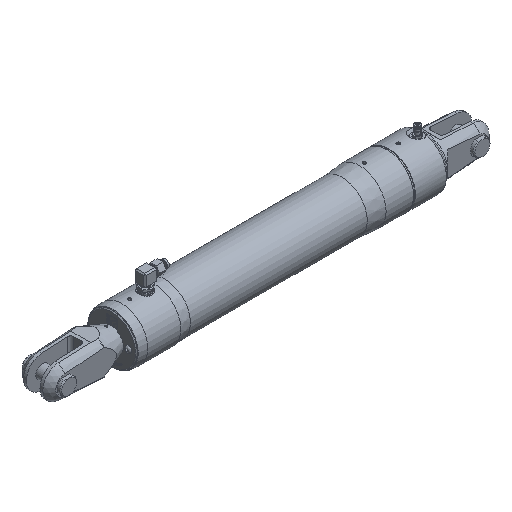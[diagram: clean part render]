
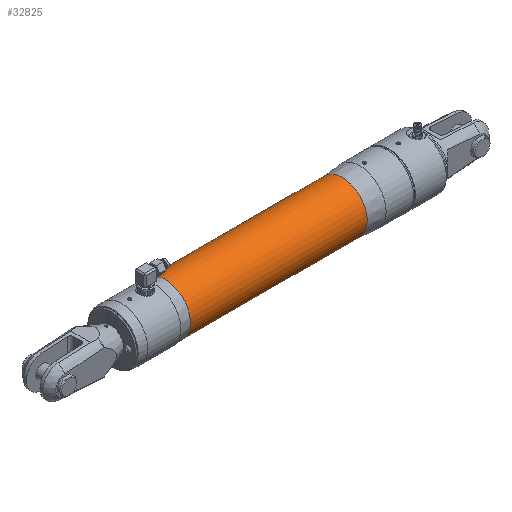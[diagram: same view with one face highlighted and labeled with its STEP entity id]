
A CAD part, isometric view. The second image highlights one B-rep face of the part: STEP entity #32825.
In plain terms, the highlighted cylindrical face has radius 41.3 mm (diameter 82.6 mm), a full revolution.
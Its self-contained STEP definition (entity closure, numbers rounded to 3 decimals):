
#3458=FACE_OUTER_BOUND('',#5248,.T.);
#5248=EDGE_LOOP('',(#22237,#22238,#22239,#22240,#22241,#22242));
#7203=LINE('',#43944,#10159);
#10159=VECTOR('',#37034,41.3);
#13061=CIRCLE('',#34796,41.3);
#13062=CIRCLE('',#34797,41.3);
#13064=CIRCLE('',#34800,41.3);
#13065=CIRCLE('',#34801,41.3);
#13648=VERTEX_POINT('',#43936);
#13649=VERTEX_POINT('',#43938);
#13650=VERTEX_POINT('',#43943);
#13651=VERTEX_POINT('',#43945);
#16985=EDGE_CURVE('',#13649,#13648,#13061,.T.);
#16986=EDGE_CURVE('',#13648,#13649,#13062,.T.);
#16988=EDGE_CURVE('',#13648,#13650,#7203,.T.);
#16989=EDGE_CURVE('',#13651,#13650,#13064,.T.);
#16990=EDGE_CURVE('',#13650,#13651,#13065,.T.);
#22237=ORIENTED_EDGE('',*,*,#16985,.T.);
#22238=ORIENTED_EDGE('',*,*,#16988,.T.);
#22239=ORIENTED_EDGE('',*,*,#16989,.F.);
#22240=ORIENTED_EDGE('',*,*,#16990,.F.);
#22241=ORIENTED_EDGE('',*,*,#16988,.F.);
#22242=ORIENTED_EDGE('',*,*,#16986,.T.);
#30810=CYLINDRICAL_SURFACE('',#34799,41.3);
#32825=ADVANCED_FACE('',(#3458),#30810,.T.);
#34796=AXIS2_PLACEMENT_3D('',#43939,#37026,#37027);
#34797=AXIS2_PLACEMENT_3D('',#43940,#37028,#37029);
#34799=AXIS2_PLACEMENT_3D('',#43942,#37032,#37033);
#34800=AXIS2_PLACEMENT_3D('',#43946,#37035,#37036);
#34801=AXIS2_PLACEMENT_3D('',#43947,#37037,#37038);
#37026=DIRECTION('center_axis',(1.,0.,0.));
#37027=DIRECTION('ref_axis',(0.,0.,
-1.));
#37028=DIRECTION('center_axis',(1.,0.,0.));
#37029=DIRECTION('ref_axis',(0.,0.,
-1.));
#37032=DIRECTION('center_axis',(1.,0.,0.));
#37033=DIRECTION('ref_axis',(0.,0.,
1.));
#37034=DIRECTION('',(1.,0.,0.));
#37035=DIRECTION('center_axis',(1.,0.,0.));
#37036=DIRECTION('ref_axis',(0.,0.,
-1.));
#37037=DIRECTION('center_axis',(1.,0.,0.));
#37038=DIRECTION('ref_axis',(0.,0.,
-1.));
#43936=CARTESIAN_POINT('',(-356.234,0.,-41.3));
#43938=CARTESIAN_POINT('',(-356.234,0.,41.3));
#43939=CARTESIAN_POINT('Origin',(-356.234,0.,
0.));
#43940=CARTESIAN_POINT('Origin',(-356.234,0.,
0.));
#43942=CARTESIAN_POINT('Origin',(-210.291,0.,
0.));
#43943=CARTESIAN_POINT('',(-64.348,0.,-41.3));
#43944=CARTESIAN_POINT('',(-210.291,0.,-41.3));
#43945=CARTESIAN_POINT('',(-64.348,0.,41.3));
#43946=CARTESIAN_POINT('Origin',(-64.348,0.,
0.));
#43947=CARTESIAN_POINT('Origin',(-64.348,0.,
0.));
